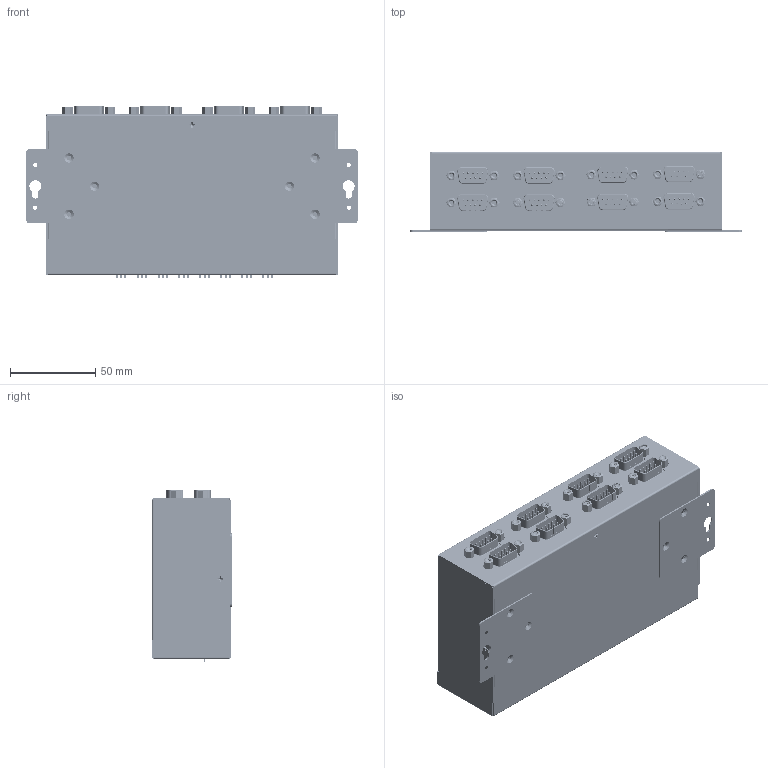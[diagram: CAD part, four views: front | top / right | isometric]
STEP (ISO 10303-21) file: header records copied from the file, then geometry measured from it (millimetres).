
FILE_DESCRIPTION(/* description */ (''),/* implementation_level */ '2;1');
FILE_NAME(/* name */ 'C:/Users/Leo/Desktop/AA CoolGear CADs/USB-8COMi-M/USB-8COMi-M Model3D LPV1.step',/* time_stamp */ '2021-08-06T16:29:04-04:00',/* author */ (''),/* organization */ (''),/* preprocessor_version */ 'ST-DEVELOPER v18.1',/* originating_system */ 'Autodesk Translation Framework v10.9.0.1377',/* authorisation */ '');
FILE_SCHEMA (('AUTOMOTIVE_DESIGN { 1 0 10303 214 3 1 1 }'));
Products named in the file (19): USB2-4com-m; Component1; 93090A544_Press-Fit Threaded Standoffs; Component3; USB type B first Gen White v3; Housing1; pin1; shielding; pin2; shielding_2; Housing3; Bolt M3X0.5 90Angle head.5-4mmL v1; Mounting plate SideR v1; Mounting plate SideR v1(Mirror); 5063N12_Circuit Board D-Sub Connector; 5063N12_Circuit Board D-Sub Connector(Mirror); Terminator v1; Connector green 3 holes female v1; Component26
Assembly tree (39 placements, depth 3):
  USB2-4com-m
    Component1
      93090A544_Press-Fit Threaded Standoffs  x4
    Component3
    5063N12_Circuit Board D-Sub Connector  x4
    5063N12_Circuit Board D-Sub Connector(Mirror)  x4
    USB type B first Gen White v3
      Housing1
      pin1  x2
      shielding
      pin2  x2
      shielding_2
      Housing3
    Bolt M3X0.5 90Angle head.5-4mmL v1  x4
    Mounting plate SideR v1
    Mounting plate SideR v1(Mirror)
    Terminator v1  x8
    Connector green 3 holes female v1
    Component26
Bounding box: 194.3 x 46.86 x 100.87 mm (x, y, z)
Volume: 99762.9 mm3; surface area: 176037.2 mm2
Topology: 3 solids, 4 shells, 6252 faces, 17958 edges, 11612 vertices
Faces by surface type: plane 4617, cylinder 1282, bspline 139, cone 78, sphere 72, torus 64
Full cylindrical faces by diameter (mm): 1 x72, 1.6 x3, 2.221 x192, 2.323 x12, 2.35 x24, 2.529 x16, 3 x237, 5 x16, 5.4 x4, 5.48 x16
Entity records: 263175 total; most frequent: CARTESIAN_POINT 100833, ORIENTED_EDGE 35764, DIRECTION 30541, EDGE_CURVE 17882, LINE 13961, VECTOR 13961, VERTEX_POINT 11612, AXIS2_PLACEMENT_3D 8290
